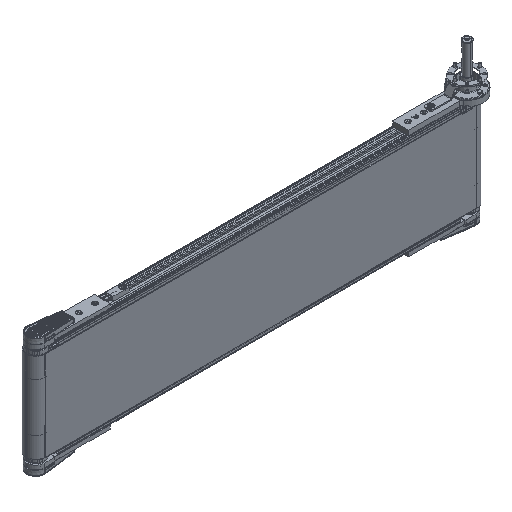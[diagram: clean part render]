
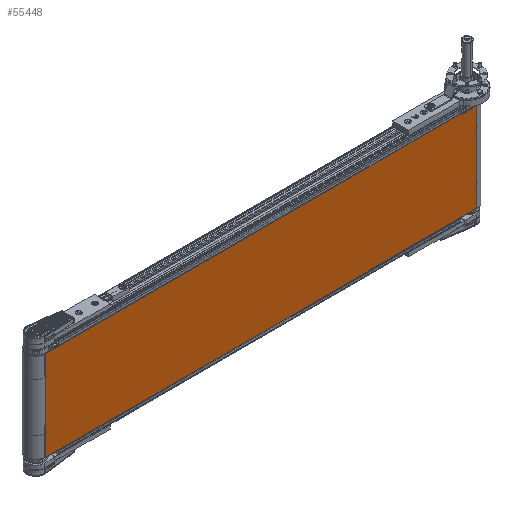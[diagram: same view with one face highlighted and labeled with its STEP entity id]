
A CAD part, isometric view. The second image highlights one B-rep face of the part: STEP entity #55448.
In plain terms, the highlighted planar face has unit normal (0, -1, 0).
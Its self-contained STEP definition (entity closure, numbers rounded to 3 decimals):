
#5354 = CARTESIAN_POINT ( 'NONE',  ( -600., -27., 125. ) ) ;
#6324 = CARTESIAN_POINT ( 'NONE',  ( -600., -27., -125. ) ) ;
#8683 = DIRECTION ( 'NONE',  ( 1., 0., 0. ) ) ;
#16494 = ORIENTED_EDGE ( 'NONE', *, *, #92483, .T. ) ;
#20174 = VECTOR ( 'NONE', #50024, 1000. ) ;
#21897 = LINE ( 'NONE', #5354, #85754 ) ;
#26346 = LINE ( 'NONE', #70207, #104596 ) ;
#26989 = DIRECTION ( 'NONE',  ( 0., 1., 0. ) ) ;
#28949 = DIRECTION ( 'NONE',  ( 0., 0., -1. ) ) ;
#34882 = ORIENTED_EDGE ( 'NONE', *, *, #89495, .T. ) ;
#35536 = FACE_OUTER_BOUND ( 'NONE', #47119, .T. ) ;
#41436 = CARTESIAN_POINT ( 'NONE',  ( 600., -27., -125. ) ) ;
#42777 = VERTEX_POINT ( 'NONE', #41436 ) ;
#47119 = EDGE_LOOP ( 'NONE', ( #16494, #85673, #62766, #34882 ) ) ;
#48258 = LINE ( 'NONE', #108136, #53125 ) ;
#50024 = DIRECTION ( 'NONE',  ( 0., 0., -1. ) ) ;
#53125 = VECTOR ( 'NONE', #28949, 1000. ) ;
#55448 = ADVANCED_FACE ( 'NONE', ( #35536 ), #70283, .F. ) ;
#62766 = ORIENTED_EDGE ( 'NONE', *, *, #68841, .F. ) ;
#63096 = VERTEX_POINT ( 'NONE', #106824 ) ;
#63636 = AXIS2_PLACEMENT_3D ( 'NONE', #105051, #26989, #96474 ) ;
#68841 = EDGE_CURVE ( 'NONE', #63096, #75219, #21897, .T. ) ;
#70207 = CARTESIAN_POINT ( 'NONE',  ( -600., -27., -125. ) ) ;
#70283 = PLANE ( 'NONE',  #63636 ) ;
#74584 = VERTEX_POINT ( 'NONE', #6324 ) ;
#75219 = VERTEX_POINT ( 'NONE', #100528 ) ;
#83966 = DIRECTION ( 'NONE',  ( 1., 0., 0. ) ) ;
#84251 = CARTESIAN_POINT ( 'NONE',  ( 600., -27., 125. ) ) ;
#85673 = ORIENTED_EDGE ( 'NONE', *, *, #85907, .F. ) ;
#85754 = VECTOR ( 'NONE', #83966, 1000. ) ;
#85907 = EDGE_CURVE ( 'NONE', #75219, #42777, #92803, .T. ) ;
#89495 = EDGE_CURVE ( 'NONE', #63096, #74584, #48258, .T. ) ;
#92483 = EDGE_CURVE ( 'NONE', #74584, #42777, #26346, .T. ) ;
#92803 = LINE ( 'NONE', #84251, #20174 ) ;
#96474 = DIRECTION ( 'NONE',  ( 0., 0., 1. ) ) ;
#100528 = CARTESIAN_POINT ( 'NONE',  ( 600., -27., 125. ) ) ;
#104596 = VECTOR ( 'NONE', #8683, 1000. ) ;
#105051 = CARTESIAN_POINT ( 'NONE',  ( -600., -27., 125. ) ) ;
#106824 = CARTESIAN_POINT ( 'NONE',  ( -600., -27., 125. ) ) ;
#108136 = CARTESIAN_POINT ( 'NONE',  ( -600., -27., 125. ) ) ;
